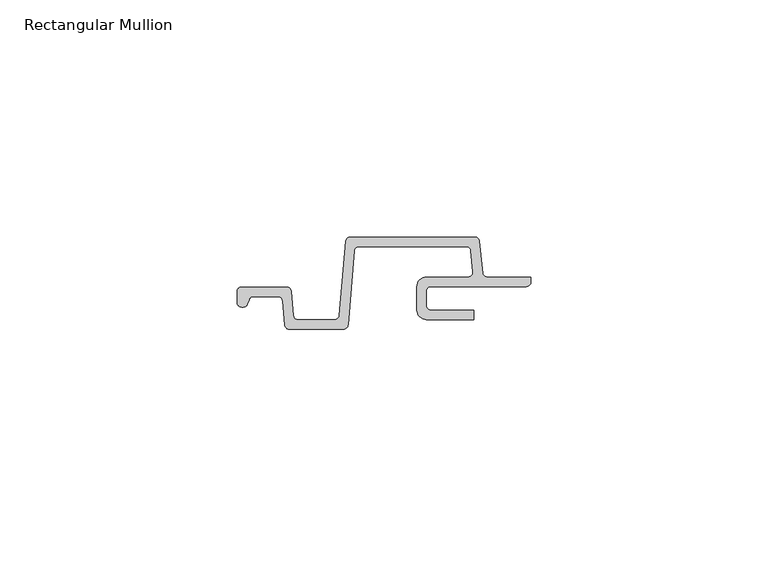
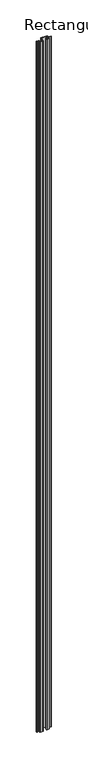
"""IFC4 building model written with IfcOpenShell, lengths in millimetres: member geometry, Rectangular Mullion : Cladding_Aluminium_Modinex_AluSelekta_Castelation_ScreenClad_40_AfricanEbony."""

from ifc_helpers import new_model, si_unit, point, frame, frame_2d, origin, place, context, project, spatial, polyline, circle_curve, trimmed, segment, composite_curve, outline, extrude, source, transform, mapped, element, save


def rectangular_mullion_4c3290df(model_context):
    return source(origin(), model_context, "Body", "SweptSolid", [
        extrude(outline(composite_curve([segment(trimmed(circle_curve(frame_2d((28.1602589, 19.0469583)), 0.9530417), [point((28.1602589, 20.0))], [point((29.1080797, 19.1465783))], False, "CARTESIAN"), True, "CONTINUOUS"), segment(polyline([(29.1080797, 19.1465783), (29.8145038, 12.4254019)]), True, "CONTINUOUS"), segment(trimmed(circle_curve(frame_2d((30.7652107, 12.5253252)), 0.9559437), [point((29.8145038, 12.4254019))], [point((30.7652107, 11.5693815))], True, "CARTESIAN"), True, "CONTINUOUS"), segment(polyline([(30.7652107, 11.5693815), (40.0, 11.5693815), (40.0, 10.5942835)]), True, "CONTINUOUS"), segment(trimmed(circle_curve(frame_2d((38.9750981, 10.5942835)), 1.0249019), [point((40.0, 10.5942835))], [point((38.9750981, 9.5693815))], False, "CARTESIAN"), True, "CONTINUOUS"), segment(polyline([(38.9750981, 9.5693815), (18.9057871, 9.5693815)]), True, "CONTINUOUS"), segment(trimmed(circle_curve(frame_2d((18.9057871, 8.6144534)), 0.9549281), [point((18.9057871, 9.5693815))], [point((17.950859, 8.6144534))], True, "CARTESIAN"), True, "CONTINUOUS"), segment(polyline([(17.950859, 8.6144534), (17.950859, 5.5543908)]), True, "CONTINUOUS"), segment(trimmed(circle_curve(frame_2d((18.9358682, 5.5543908)), 0.9850092), [point((17.950859, 5.5543908))], [point((18.9358682, 4.5693815))], True, "CARTESIAN"), True, "CONTINUOUS"), segment(polyline([(18.9358682, 4.5693815), (27.950859, 4.5693815), (27.950859, 2.6193278), (17.950859, 2.6193278)]), True, "CONTINUOUS"), segment(trimmed(circle_curve(frame_2d((17.950859, 4.6193278)), 2.0), [point((17.950859, 2.6193278))], [point((15.950859, 4.6193278))], False, "CARTESIAN"), True, "CONTINUOUS"), segment(polyline([(15.950859, 4.6193278), (15.950859, 9.5693815)]), True, "CONTINUOUS"), segment(trimmed(circle_curve(frame_2d((17.950859, 9.5693815)), 2.0), [point((15.950859, 9.5693815))], [point((17.950859, 11.5693815))], False, "CARTESIAN"), True, "CONTINUOUS"), segment(polyline([(17.950859, 11.5693815), (26.7710049, 11.5693815)]), True, "CONTINUOUS"), segment(trimmed(circle_curve(frame_2d((26.7710049, 12.5800434)), 1.0106619), [point((26.7710049, 11.5693815))], [point((27.7761303, 12.6856863))], True, "CARTESIAN"), True, "CONTINUOUS"), segment(polyline([(27.7761303, 12.6856863), (27.3133998, 17.0882732)]), True, "CONTINUOUS"), segment(trimmed(circle_curve(frame_2d((26.3008245, 16.9818472)), 1.0181528), [point((27.3133998, 17.0882732))], [point((26.3008245, 18.0))], True, "CARTESIAN"), True, "CONTINUOUS"), segment(polyline([(26.3008245, 18.0), (3.7562917, 18.0)]), True, "CONTINUOUS"), segment(trimmed(circle_curve(frame_2d((3.7562917, 17.0031323)), 0.9968677), [point((3.7562917, 18.0))], [point((2.7629042, 17.0863575))], True, "CARTESIAN"), True, "CONTINUOUS"), segment(polyline([(2.7629042, 17.0863575), (1.4554776, 1.4807279)]), True, "CONTINUOUS"), segment(trimmed(circle_curve(frame_2d((0.4714254, 1.5631709)), 0.9874997), [point((1.4554776, 1.4807279))], [point((0.4714254, 0.5756712))], False, "CARTESIAN"), True, "CONTINUOUS"), segment(polyline([(0.4714254, 0.5756712), (-10.9517008, 0.5756712)]), True, "CONTINUOUS"), segment(trimmed(circle_curve(frame_2d((-10.9517008, 1.5408365)), 0.9651653), [point((-10.9517008, 0.5756712))], [point((-11.9131934, 1.4567168))], False, "CARTESIAN"), True, "CONTINUOUS"), segment(polyline([(-11.9131934, 1.4567168), (-12.3557323, 6.5149597)]), True, "CONTINUOUS"), segment(trimmed(circle_curve(frame_2d((-13.3768988, 6.4256192)), 1.0250672), [point((-12.3557323, 6.5149597))], [point((-13.3768988, 7.4506863))], True, "CARTESIAN"), True, "CONTINUOUS"), segment(polyline([(-13.3768988, 7.4506863), (-18.5136482, 7.4506863)]), True, "CONTINUOUS"), segment(trimmed(circle_curve(frame_2d((-18.5136482, 6.4702644)), 0.9804219), [point((-18.5136482, 7.4506863))], [point((-19.4349434, 6.8055885))], True, "CARTESIAN"), True, "CONTINUOUS"), segment(polyline([(-19.4349434, 6.8055885), (-19.775118, 5.8709666)]), True, "CONTINUOUS"), segment(trimmed(circle_curve(frame_2d((-20.6886873, 6.2034786)), 0.9722002), [point((-19.775118, 5.8709666))], [point((-20.816454, 5.2397106))], False, "CARTESIAN"), True, "CONTINUOUS"), segment(trimmed(circle_curve(frame_2d((-20.9471402, 6.2482227)), 1.0169443), [point((-20.816454, 5.2397106))], [point((-21.9640845, 6.2482227))], False, "CARTESIAN"), True, "CONTINUOUS"), segment(polyline([(-21.9640845, 6.2482227), (-21.9640845, 8.4647161)]), True, "CONTINUOUS"), segment(trimmed(circle_curve(frame_2d((-20.9781144, 8.4647161)), 0.9859702), [point((-21.9640845, 8.4647161))], [point((-20.9781144, 9.4506863))], False, "CARTESIAN"), True, "CONTINUOUS"), segment(polyline([(-20.9781144, 9.4506863), (-11.510796, 9.4506863)]), True, "CONTINUOUS"), segment(trimmed(circle_curve(frame_2d((-11.510796, 8.462113)), 0.9885733), [point((-11.510796, 9.4506863))], [point((-10.5259845, 8.5482728))], False, "CARTESIAN"), True, "CONTINUOUS"), segment(polyline([(-10.5259845, 8.5482728), (-10.0804388, 3.4556618)]), True, "CONTINUOUS"), segment(trimmed(circle_curve(frame_2d((-9.1200976, 3.5396807)), 0.9640095), [point((-10.0804388, 3.4556618))], [point((-9.1200976, 2.5756712))], True, "CARTESIAN"), True, "CONTINUOUS"), segment(polyline([(-9.1200976, 2.5756712), (-1.3753125, 2.5756712)]), True, "CONTINUOUS"), segment(trimmed(circle_curve(frame_2d((-1.3753125, 3.5710967)), 0.9954255), [point((-1.3753125, 2.5756712))], [point((-0.3833621, 3.487992))], True, "CARTESIAN"), True, "CONTINUOUS"), segment(polyline([(-0.3833621, 3.487992), (0.923703, 19.0893075)]), True, "CONTINUOUS"), segment(trimmed(circle_curve(frame_2d((1.9138829, 19.0063511)), 0.9936489), [point((0.923703, 19.0893075))], [point((1.9138829, 20.0))], False, "CARTESIAN"), True, "CONTINUOUS"), segment(polyline([(1.9138829, 20.0), (28.1602589, 20.0)]), True, "CONTINUOUS")], self_intersect=False)), frame((0.0, 0.0, -3000.0), z_axis=(0.0, 0.0, 1.0), x_axis=(1.0, 0.0, 0.0)), (0.0, 0.0, 1.0), 3000.0),
    ])


if __name__ == "__main__":
    model = new_model("IFC4")
    model_context = context("Model", 3, world=origin())
    ifc_project = project(units=[si_unit("LENGTHUNIT", "METRE", prefix="MILLI")], contexts=[model_context])
    site = spatial("IfcSite", under=ifc_project)
    building = spatial("IfcBuilding", under=site)
    placement = place(None, origin())
    rectangular_mullion_shape = rectangular_mullion_4c3290df(model_context)
    element("IfcMember", 1, ObjectType="Rectangular Mullion : Cladding_Aluminium_Modinex_AluSelekta_Castelation_ScreenClad_40_AfricanEbony", at=placement, inside=building, context=model_context, shape_type="MappedRepresentation", body=[
        mapped(rectangular_mullion_shape, transform((0.0, 0.0, 0.0), x_axis=(1.0, 0.0, 0.0), y_axis=(0.0, 1.0, 0.0), z_axis=(0.0, 0.0, 1.0))),
    ])
    save(model, "model.ifc")
